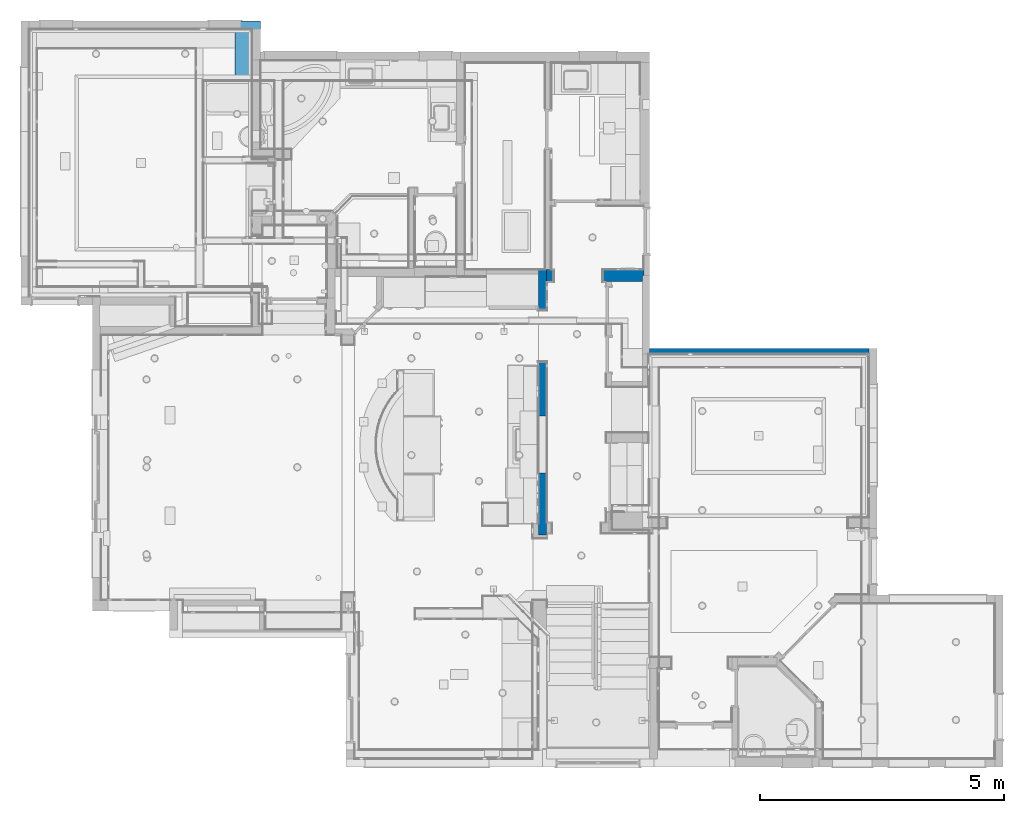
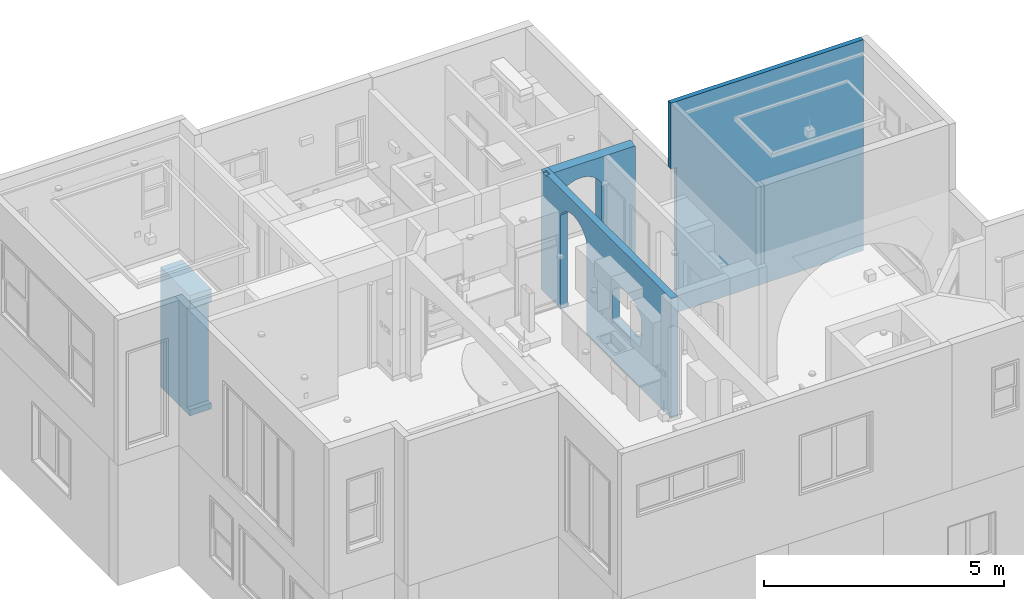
# One storey, part 29 of 60: 4 walls.
"""IFC2X3 building model written with IfcOpenShell, lengths in feet."""

from ifc_helpers import new_model, entity, si_unit, converted_unit, direction, frame, origin, place, context, subcontext, project, spatial, faceted_brep, material, layer, layer_set, type_object, element, save


model = new_model("IFC2X3")

# Units and contexts
model_context = context("Model", 3, precision=0.0001, world=origin(), true_north=direction((6.123031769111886e-17, 1.0)))
plan_context = context("Plan", 3, precision=0.0001, world=origin(), true_north=direction((6.123031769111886e-17, 1.0)))
body_context = subcontext(model_context, "Body", "Model", "MODEL_VIEW")
ifc_project = project(units=[converted_unit("LENGTHUNIT", "FOOT", entity("IfcLengthMeasure", 0.3048), si_unit("LENGTHUNIT", "METRE"), dimensions=[1, 0, 0, 0, 0, 0, 0]), converted_unit("AREAUNIT", "SQUARE FOOT", entity("IfcAreaMeasure", 0.09290304), si_unit("AREAUNIT", "SQUARE_METRE"), dimensions=[2, 0, 0, 0, 0, 0, 0]), converted_unit("PLANEANGLEUNIT", "DEGREE", entity("IfcPlaneAngleMeasure", 0.017453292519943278), si_unit("PLANEANGLEUNIT", "RADIAN"), dimensions=[0, 0, 0, 0, 0, 0, 0])], contexts=[model_context, plan_context])

# Site, building, storey
site_placement = place(None, origin())
site = spatial("IfcSite", under=ifc_project, at=site_placement, Name="Default", CompositionType="ELEMENT")
building_placement = place(site_placement, origin())
building = spatial("IfcBuilding", under=site, at=building_placement, CompositionType="ELEMENT")
storey_placement = place(building_placement, origin())
storey = spatial("IfcBuildingStorey", under=building, at=storey_placement, Name="First floor", CompositionType="ELEMENT", Elevation=0.0)

# Walls
ifc_material = material(Name="Default New Material")
ifc_layer_1 = layer(ifc_material, 0.5416666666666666)
ifc_layer_set_1 = layer_set([ifc_layer_1], Name="Basic Wall:Wall_6.5\"")
wall_type_1 = type_object("IfcWallType", Name="Basic Wall:Wall_6.5\"", PredefinedType="STANDARD", material=ifc_layer_set_1)
wall_1_placement = place(storey_placement, frame((13.187499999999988, 33.41632150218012, 10.666666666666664), z_axis=(0.0, 0.0, 1.0), x_axis=(0.0, -1.0, 0.0)))
element("IfcWall", 1, at=wall_1_placement, inside=storey, type_object=wall_type_1, Name="Basic Wall:Wall_6.5\"", ObjectType="Basic Wall:Wall_6.5\"", context=body_context, shape_type="Brep", body=[
    faceted_brep([(17.062500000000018, -0.27083333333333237, 0.0), (6.208333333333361, -0.2708333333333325, 0.0), (6.208333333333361, 0.2708333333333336, 0.0), (17.0, 0.2708333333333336, 0.0), (17.708333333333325, 0.270833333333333, 0.0), (17.81215483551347, 0.27083333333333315, 0.0), (17.812154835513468, -0.2708333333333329, 0.0), (0.2913215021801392, -0.2708333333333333, 0.0), (0.0, -0.27083333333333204, 0.0), (0.0, 0.1874999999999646, 0.0), (0.0, 0.27083333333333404, 0.0), (0.7916666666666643, 0.2708333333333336, 0.0), (2.7083333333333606, 0.2708333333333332, 0.0), (2.7083333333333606, -0.27083333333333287, 0.0), (2.7083333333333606, -0.27083333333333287, 7.833333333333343), (0.2913215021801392, -0.2708333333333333, 9.875), (0.0, -0.27083333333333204, 10.0), (0.7916666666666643, -0.2708333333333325, 9.875), (2.8673858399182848, -0.27083333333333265, 8.064962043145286), (3.056880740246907, -0.2708333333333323, 8.272425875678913), (3.27319209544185, -0.270833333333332, 8.451755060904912), (0.7916666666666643, -0.2708333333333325, 10.0), (3.512180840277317, -0.27083333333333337, 8.599518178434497), (3.7692739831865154, -0.2708333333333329, 8.712887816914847), (4.039552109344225, -0.2708333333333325, 8.789694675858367), (4.317843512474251, -0.27083333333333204, 8.82846907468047), (4.598823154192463, -0.2708333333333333, 8.82846907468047), (4.877114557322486, -0.27083333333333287, 8.789694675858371), (17.062500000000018, -0.27083333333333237, 10.0), (5.147392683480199, -0.2708333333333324, 8.71288781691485), (5.404485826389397, -0.27083333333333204, 8.599518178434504), (5.643474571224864, -0.2708333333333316, 8.451755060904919), (11.437030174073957, -0.27083333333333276, 6.813360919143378), (5.859785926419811, -0.27083333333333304, 8.272425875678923), (11.129137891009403, -0.27083333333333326, 6.753767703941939), (6.049280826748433, -0.2708333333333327, 8.0649620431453), (10.831318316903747, -0.270833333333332, 6.655520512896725), (6.208333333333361, -0.2708333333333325, 7.833333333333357), (10.548403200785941, -0.2708333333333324, 6.520213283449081), (10.28498248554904, -0.27083333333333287, 6.350041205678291), (10.045329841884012, -0.27083333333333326, 6.147765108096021), (9.833333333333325, -0.2708333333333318, 5.916666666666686), (9.833333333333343, -0.2708333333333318, 3.416666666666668), (13.666666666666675, -0.27083333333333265, 3.416666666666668), (13.666666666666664, -0.27083333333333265, 5.916666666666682), (17.812154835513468, -0.2708333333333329, 10.0), (13.45467015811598, -0.270833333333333, 6.147765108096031), (13.215017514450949, -0.2708333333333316, 6.350041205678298), (11.749999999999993, -0.27083333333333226, 6.833333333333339), (12.951596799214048, -0.27083333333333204, 6.520213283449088), (12.668681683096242, -0.2708333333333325, 6.655520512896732), (12.370862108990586, -0.270833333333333, 6.753767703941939), (12.062969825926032, -0.2708333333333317, 6.813360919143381), (0.2913215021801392, -0.2708333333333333, 10.0), (13.666666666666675, 0.2708333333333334, 3.416666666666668), (13.666666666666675, 0.2708333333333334, 5.916666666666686), (17.81215483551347, 0.27083333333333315, 10.0), (9.833333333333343, 0.27083333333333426, 3.416666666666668), (6.208333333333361, 0.2708333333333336, 7.833333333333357), (9.833333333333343, 0.27083333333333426, 5.916666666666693), (10.045329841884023, 0.2708333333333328, 6.147765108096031), (10.284982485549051, 0.2708333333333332, 6.350041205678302), (10.548403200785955, 0.27083333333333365, 6.520213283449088), (10.831318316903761, 0.2708333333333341, 6.655520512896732), (6.049280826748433, 0.27083333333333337, 8.0649620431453), (11.129137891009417, 0.2708333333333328, 6.753767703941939), (5.859785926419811, 0.27083333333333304, 8.272425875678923), (11.437030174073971, 0.2708333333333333, 6.813360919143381), (5.643474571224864, 0.2708333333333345, 8.451755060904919), (17.0, 0.2708333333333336, 10.0), (5.404485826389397, 0.27083333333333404, 8.599518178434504), (5.147392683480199, 0.27083333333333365, 8.71288781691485), (4.877114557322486, 0.2708333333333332, 8.789694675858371), (0.7916666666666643, 0.2708333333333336, 10.0), (4.598823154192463, 0.27083333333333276, 8.82846907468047), (4.317843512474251, 0.27083333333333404, 8.82846907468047), (4.039552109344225, 0.2708333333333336, 8.789694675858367), (3.7692739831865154, 0.27083333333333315, 8.712887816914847), (3.512180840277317, 0.2708333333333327, 8.599518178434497), (3.27319209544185, 0.2708333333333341, 8.451755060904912), (3.056880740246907, 0.27083333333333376, 8.272425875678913), (2.8673858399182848, 0.2708333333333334, 8.064962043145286), (2.7083333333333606, 0.2708333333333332, 7.833333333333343), (0.0, 0.27083333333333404, 10.0), (13.454670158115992, 0.2708333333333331, 6.147765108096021), (13.215017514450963, 0.2708333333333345, 6.350041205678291), (17.708333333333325, 0.270833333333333, 10.0), (12.951596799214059, 0.27083333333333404, 6.520213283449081), (12.668681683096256, 0.2708333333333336, 6.655520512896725), (12.370862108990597, 0.2708333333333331, 6.753767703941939), (11.750000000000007, 0.2708333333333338, 6.833333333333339), (12.062969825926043, 0.27083333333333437, 6.813360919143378), (0.0, 0.1874999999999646, 10.0), (0.2913215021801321, 0.0, 10.0), (0.7916666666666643, 0.0, 10.0), (0.7916666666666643, 0.0, 9.875), (0.2913215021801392, 0.0, 9.875)], [[[0, 1, 2, 3, 4, 5, 6]], [[7, 8, 9, 10, 11, 12, 13]], [[8, 7, 14]], [[8, 14, 15]], [[15, 16, 8]], [[13, 14, 7]], [[14, 17, 15]], [[14, 18, 17]], [[18, 19, 17]], [[19, 20, 17]], [[20, 21, 17]], [[20, 22, 21]], [[22, 23, 21]], [[23, 24, 21]], [[24, 25, 21]], [[25, 26, 21]], [[27, 21, 26]], [[21, 27, 28]], [[28, 27, 29]], [[30, 28, 29]], [[30, 31, 28]], [[31, 32, 28]], [[33, 32, 31]], [[33, 34, 32]], [[33, 35, 34]], [[34, 35, 36]], [[37, 36, 35]], [[38, 36, 37]], [[38, 37, 39]], [[40, 39, 37]], [[41, 40, 37]], [[37, 42, 41]], [[37, 1, 42]], [[42, 1, 0]], [[0, 43, 42]], [[43, 0, 6]], [[43, 6, 44]], [[6, 45, 44]], [[44, 45, 28]], [[46, 44, 28]], [[47, 46, 28]], [[28, 32, 48]], [[49, 47, 28]], [[50, 49, 28]], [[51, 50, 28]], [[51, 28, 52]], [[52, 28, 48]], [[15, 53, 16]], [[5, 4, 54]], [[54, 55, 5]], [[5, 55, 56]], [[54, 4, 3]], [[54, 3, 57]], [[3, 2, 57]], [[58, 57, 2]], [[57, 58, 59]], [[58, 60, 59]], [[60, 58, 61]], [[62, 61, 58]], [[63, 62, 58]], [[64, 63, 58]], [[63, 64, 65]], [[66, 65, 64]], [[66, 67, 65]], [[66, 68, 67]], [[67, 68, 69]], [[70, 69, 68]], [[70, 71, 69]], [[72, 69, 71]], [[72, 73, 69]], [[72, 74, 73]], [[74, 75, 73]], [[76, 73, 75]], [[77, 73, 76]], [[77, 78, 73]], [[78, 79, 73]], [[79, 80, 73]], [[80, 81, 73]], [[81, 82, 73]], [[82, 83, 73]], [[10, 83, 82]], [[82, 11, 10]], [[82, 12, 11]], [[55, 84, 69]], [[84, 85, 69]], [[55, 69, 86]], [[85, 87, 69]], [[87, 88, 69]], [[88, 89, 69]], [[90, 67, 69]], [[91, 90, 69]], [[89, 91, 69]], [[86, 56, 55]], [[45, 6, 5, 56]], [[21, 28, 45, 56, 86, 69, 73, 83, 92, 16, 53, 93, 94]], [[92, 83, 10, 9, 8, 16]], [[95, 96, 15, 17]], [[17, 21, 94, 95]], [[95, 94, 93, 96]], [[96, 93, 53, 15]], [[54, 43, 44, 55]], [[59, 41, 42, 57]], [[54, 57, 42, 43]], [[84, 55, 44, 46]], [[85, 84, 46, 47]], [[91, 89, 51, 52]], [[89, 88, 50, 51]], [[52, 48, 90, 91]], [[49, 87, 85, 47]], [[50, 88, 87, 49]], [[65, 67, 32, 34]], [[65, 34, 36, 63]], [[39, 40, 60, 61]], [[61, 62, 38, 39]], [[62, 63, 36, 38]], [[59, 60, 40, 41]], [[32, 67, 90, 48]], [[13, 12, 82, 14]], [[18, 14, 82, 81]], [[81, 80, 19, 18]], [[80, 79, 20, 19]], [[76, 24, 23, 77]], [[78, 77, 23, 22]], [[75, 25, 24, 76]], [[22, 20, 79, 78]], [[75, 74, 26, 25]], [[29, 27, 72, 71]], [[27, 26, 74, 72]], [[30, 29, 71, 70]], [[64, 35, 33, 66]], [[33, 31, 68, 66]], [[31, 30, 70, 68]], [[37, 35, 64, 58]], [[37, 58, 2, 1]]]),
])
ifc_layer_2 = layer(ifc_material, 0.375)
ifc_layer_set_2 = layer_set([ifc_layer_2], Name="Basic Wall:Wall_4.5\"")
wall_type_2 = type_object("IfcWallType", Name="Basic Wall:Wall_4.5\"", PredefinedType="STANDARD", material=ifc_layer_set_2)
wall_2_placement = place(storey_placement, frame((35.12500000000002, 27.937499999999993, 9.541666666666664), z_axis=(0.0, 0.0, 1.0), x_axis=(-1.0, 0.0, 0.0)))
element("IfcWall", 2, at=wall_2_placement, inside=storey, type_object=wall_type_2, Name="Basic Wall:Wall_4.5\"", ObjectType="Basic Wall:Wall_4.5\"", context=body_context, shape_type="Brep", body=[
    faceted_brep([(0.0, -0.1875, 0.0), (14.750000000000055, -0.1875, 0.0), (14.750000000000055, -0.1875, 12.125), (15.208333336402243, -0.18749999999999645, 12.125), (15.208333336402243, -0.18749999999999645, 17.624999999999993), (0.0, -0.1875, 17.624999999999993), (0.0, 0.1875, 0.0), (0.0, 0.1875, 17.624999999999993), (14.833333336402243, 0.1875, 17.624999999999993), (15.208333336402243, 0.18750000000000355, 17.624999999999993), (15.208333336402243, 0.18750000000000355, 12.125), (14.750000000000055, 0.1875, 12.125), (14.750000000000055, 0.1875, 0.0)], [[[0, 1, 2, 3, 4, 5]], [[6, 7, 8, 9, 10, 11, 12]], [[1, 0, 6, 12]], [[5, 4, 9, 8, 7]], [[0, 5, 7, 6]], [[10, 3, 2, 11]], [[1, 12, 11, 2]], [[4, 3, 10, 9]]]),
])
ifc_layer_3 = layer(ifc_material, 0.7916666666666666)
ifc_layer_set_3 = layer_set([ifc_layer_3], Name="Basic Wall:Wall_9.5\"")
wall_type_3 = type_object("IfcWallType", Name="Basic Wall:Wall_9.5\"", PredefinedType="STANDARD", material=ifc_layer_set_3)
wall_3_placement = place(storey_placement, frame((20.0, 33.02048816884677, 9.541666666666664), z_axis=(0.0, 0.0, 1.0), x_axis=(-1.0, 0.0, 0.0)))
element("IfcWall", 3, at=wall_3_placement, inside=storey, type_object=wall_type_3, Name="Basic Wall:Wall_9.5\"", ObjectType="Basic Wall:Wall_9.5\"", context=body_context, shape_type="Brep", body=[
    faceted_brep([(2.16666666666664, 0.3958333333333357, 1.1250000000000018), (2.5416666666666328, 0.3958333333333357, 1.1250000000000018), (2.74999999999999, 0.3958333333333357, 1.1250000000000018), (2.749999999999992, -0.3958333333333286, 1.1250000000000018), (0.08333333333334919, -0.3958333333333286, 1.1250000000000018), (0.08333333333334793, 0.0, 1.1250000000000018), (0.08333333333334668, 0.3958333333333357, 1.1250000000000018), (6.083333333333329, 0.3958333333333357, 1.1250000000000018), (6.541666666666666, 0.3958333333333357, 1.1250000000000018), (6.541666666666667, -0.3958333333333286, 1.1250000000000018), (6.250000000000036, -0.3958333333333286, 1.1250000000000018), (6.083333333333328, -0.3958333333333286, 1.1250000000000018), (0.0, -0.3958333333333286, 0.0), (0.08333333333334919, -0.3958333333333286, 0.0), (2.7499999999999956, -0.3958333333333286, 8.958333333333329), (2.894933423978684, -0.3958333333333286, 9.188474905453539), (3.071415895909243, -0.3958333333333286, 9.39541638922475), (3.275788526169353, -0.3958333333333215, 9.574867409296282), (3.5038141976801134, -0.3958333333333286, 9.72310753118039), (3.7507654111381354, -0.3958333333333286, 9.837063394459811), (4.011522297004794, -0.3958333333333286, 9.914372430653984), (4.2806787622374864, -0.3958333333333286, 9.953431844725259), (4.552654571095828, -0.3958333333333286, 9.953431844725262), (4.821811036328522, -0.3958333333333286, 9.914372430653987), (5.082567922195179, -0.3958333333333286, 9.837063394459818), (5.329519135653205, -0.3958333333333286, 9.7231075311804), (5.557544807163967, -0.3958333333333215, 9.574867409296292), (5.761917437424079, -0.3958333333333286, 9.395416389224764), (5.938399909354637, -0.3958333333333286, 9.188474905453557), (6.0833333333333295, -0.3958333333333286, 8.958333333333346), (6.541666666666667, -0.3958333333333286, 11.125), (6.250000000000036, -0.3958333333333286, 11.125), (0.0, -0.3958333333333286, 11.125), (0.0, -0.3958333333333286, 1.1250000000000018), (6.083333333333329, 0.3958333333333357, 8.958333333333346), (5.9383999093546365, 0.3958333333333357, 9.188474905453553), (5.761917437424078, 0.3958333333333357, 9.395416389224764), (5.557544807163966, 0.3958333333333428, 9.574867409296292), (5.329519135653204, 0.3958333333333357, 9.7231075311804), (5.08256792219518, 0.3958333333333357, 9.837063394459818), (4.821811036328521, 0.3958333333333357, 9.914372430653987), (4.552654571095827, 0.3958333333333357, 9.953431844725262), (4.280678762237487, 0.3958333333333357, 9.953431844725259), (4.0115222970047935, 0.3958333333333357, 9.914372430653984), (3.7507654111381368, 0.3958333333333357, 9.837063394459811), (3.503814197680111, 0.3958333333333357, 9.72310753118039), (3.2757885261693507, 0.3958333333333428, 9.574867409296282), (3.0714158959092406, 0.3958333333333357, 9.39541638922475), (2.8949334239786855, 0.3958333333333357, 9.188474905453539), (2.7499999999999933, 0.3958333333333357, 8.958333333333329), (0.08333333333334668, 0.3958333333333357, 11.125), (2.1666666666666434, 0.3958333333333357, 11.125), (2.5416666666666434, 0.3958333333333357, 11.125), (6.541666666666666, 0.3958333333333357, 11.125), (0.0, 0.0, 0.0), (0.08333333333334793, 0.0, 0.0), (0.08333333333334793, 0.0, 11.125), (0.0, 0.0, 11.125)], [[[0, 1, 2, 3, 4, 5, 6]], [[7, 8, 9, 10, 11]], [[12, 13, 4, 3, 14, 15, 16, 17, 18, 19, 20, 21, 22, 23, 24, 25, 26, 27, 28, 29, 11, 10, 9, 30, 31, 32, 33]], [[8, 7, 34, 35, 36, 37, 38, 39, 40, 41, 42, 43, 44, 45, 46, 47, 48, 49, 2, 1, 0, 6, 50, 51, 52, 53]], [[13, 12, 54, 55]], [[52, 51, 50, 56, 57, 32, 31, 30, 53]], [[57, 54, 12, 33, 32]], [[5, 55, 54, 57, 56]], [[50, 6, 5, 56]], [[4, 13, 55, 5]], [[9, 8, 53, 30]], [[15, 14, 49, 48]], [[16, 15, 48, 47]], [[17, 16, 47, 46]], [[43, 20, 19, 44]], [[19, 18, 45, 44]], [[21, 20, 43, 42]], [[46, 45, 18, 17]], [[42, 41, 22, 21]], [[24, 23, 40, 39]], [[23, 22, 41, 40]], [[25, 24, 39, 38]], [[35, 28, 27, 36]], [[27, 26, 37, 36]], [[26, 25, 38, 37]], [[29, 28, 35, 34]], [[29, 34, 7, 11]], [[14, 3, 2, 49]]]),
])
ifc_layer_4 = layer(ifc_material, 1.7083333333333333)
ifc_layer_set_4 = layer_set([ifc_layer_4], Name="Basic Wall:Wall_1' 8 1/2\"")
wall_type_4 = type_object("IfcWallType", Name="Basic Wall:Wall_1' 8 1/2\"", PredefinedType="STANDARD", material=ifc_layer_set_4)
wall_4_placement = place(storey_placement, frame((-6.6250000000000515, 50.12500000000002, -0.5), z_axis=(0.0, 0.0, 1.0), x_axis=(0.0, -1.0, 0.0)))
element("IfcWall", 4, at=wall_4_placement, inside=storey, type_object=wall_type_4, Name="Basic Wall:Wall_1' 8 1/2\"", ObjectType="Basic Wall:Wall_1' 8 1/2\"", context=body_context, shape_type="Brep", body=[
    faceted_brep([(0.0, -0.8541666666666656, 0.0), (1.8333333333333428, -0.8541666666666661, 0.0), (4.0, -0.8541666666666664, 0.0), (4.0, -0.8541666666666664, 0.5), (3.6250000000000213, -0.8541666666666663, 0.5), (3.6250000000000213, -0.8541666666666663, 8.916666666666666), (4.0, -0.8541666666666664, 8.916666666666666), (4.0, -0.8541666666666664, 10.041666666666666), (1.8333333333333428, -0.8541666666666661, 10.041666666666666), (0.0, -0.8541666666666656, 10.041666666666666), (0.0, 0.8541666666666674, 0.0), (0.0, 0.8541666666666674, 10.041666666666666), (3.458333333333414, 0.8541666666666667, 10.041666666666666), (4.0, 0.8541666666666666, 10.041666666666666), (4.0, 0.8541666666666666, 8.916666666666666), (3.6250000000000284, 0.8541666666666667, 8.916666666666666), (3.6250000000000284, 0.8541666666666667, 0.5), (4.0, 0.8541666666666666, 0.5), (4.0, 0.8541666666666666, 0.0), (3.458333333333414, 0.8541666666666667, 0.0)], [[[0, 1, 2, 3, 4, 5, 6, 7, 8, 9]], [[10, 11, 12, 13, 14, 15, 16, 17, 18, 19]], [[2, 1, 0, 10, 19, 18]], [[9, 8, 7, 13, 12, 11]], [[0, 9, 11, 10]], [[16, 4, 3, 17]], [[3, 2, 18, 17]], [[14, 6, 5, 15]], [[5, 4, 16, 15]], [[7, 6, 14, 13]]]),
])

save(model, "model.ifc")
